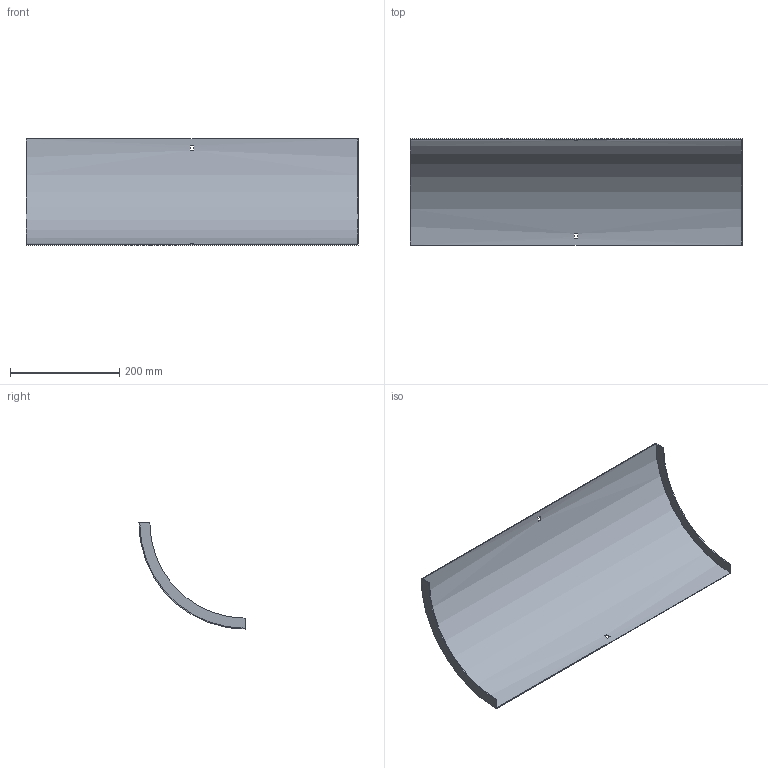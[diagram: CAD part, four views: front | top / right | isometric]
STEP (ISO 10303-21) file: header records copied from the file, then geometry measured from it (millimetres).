
FILE_DESCRIPTION (( 'STEP AP214' ), '1' );
FILE_NAME ('33N1I600.step', '2025-02-21T09:19:49', ( '' ), ( '' ), 'SwSTEP 2.0', 'SolidWorks 2023', '' );
FILE_SCHEMA (( 'AUTOMOTIVE_DESIGN' ));
Length unit declared in the file: millimetre
Products named in the file (1): 33N1I600
Bounding box: 607 x 194 x 194 mm (x, y, z)
Volume: 292187.5 mm3; surface area: 392432.2 mm2
Topology: 1 solids, 1 shells, 18 faces, 48 edges, 32 vertices
Faces by surface type: plane 14, cylinder 4
Entity records: 599 total; most frequent: DIRECTION 102, CARTESIAN_POINT 99, ORIENTED_EDGE 96, EDGE_CURVE 48, AXIS2_PLACEMENT_3D 35, VECTOR 32, LINE 32, VERTEX_POINT 32
